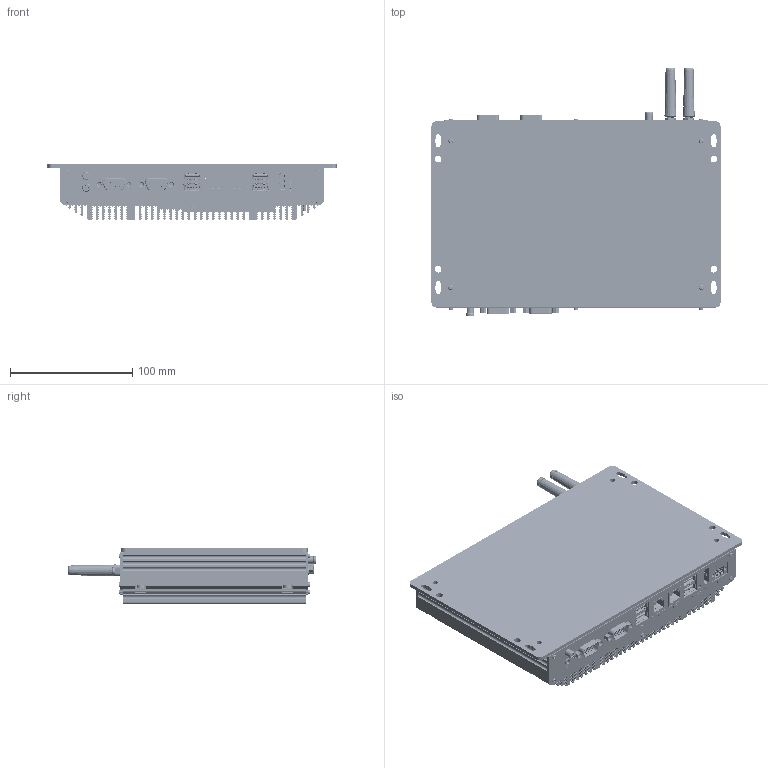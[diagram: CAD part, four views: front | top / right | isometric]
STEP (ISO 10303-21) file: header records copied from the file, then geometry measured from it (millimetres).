
FILE_DESCRIPTION (( 'STEP AP214' ), '1' );
FILE_NAME ('J6412二代型材BOX装配体+GPIO款.STEP', '2024-04-25T11:01:36', ( 'pc' ), ( '' ), 'SwSTEP 2.0', 'SolidWorks 2018', '' );
FILE_SCHEMA (( 'AUTOMOTIVE_DESIGN' ));
Length unit declared in the file: millimetre
Products named in the file (15): J6412二代型材上接口板+GPIO款; 二代型材BOX壳体封板; M3蹟裝; J6412二代型材下接口板; ES101382_IPC2-6412-V01; J6412¶þ´úÐÍ²ÄBOX+GPIO¿î; J6412二代型材BOX装配体+GPIO款; 4濰譙拸盄毞盄; M4蹟裝 - 1; 拸盄毞盄; 土耳其J6412款+GPIO上接口面膜; M3三组合螺丝; M4俋噤6諉華蹟佪; 汇湾J6412面膜拉伸图档; GPIO+2xCOM+启停PCB板
Assembly tree (30 placements, depth 2):
  J6412二代型材BOX装配体+GPIO款
    J6412¶þ´úÐÍ²ÄBOX+GPIO¿î
    ES101382_IPC2-6412-V01
    J6412二代型材下接口板
    M3蹟裝  x10
    二代型材BOX壳体封板
    J6412二代型材上接口板+GPIO款
    GPIO+2xCOM+启停PCB板
    汇湾J6412面膜拉伸图档
    M4俋噤6諉華蹟佪  x2
    M3三组合螺丝  x2
    土耳其J6412款+GPIO上接口面膜
    拸盄毞盄  x2
    M4蹟裝 - 1  x4
    4濰譙拸盄毞盄  x2
Bounding box: 236.5 x 203.4 x 45 mm (x, y, z)
Volume: 502813.2 mm3; surface area: 465603.2 mm2
Topology: 149 solids, 314 shells, 23730 faces, 63963 edges, 41552 vertices
Faces by surface type: plane 15888, cylinder 5497, bspline 1655, torus 372, cone 244, sphere 74
Entity records: 1107018 total; most frequent: CARTESIAN_POINT 289935, ORIENTED_EDGE 125854, DIRECTION 110908, EDGE_CURVE 63000, VECTOR 46370, LINE 46370, VERTEX_POINT 40960, AXIS2_PLACEMENT_3D 32269
